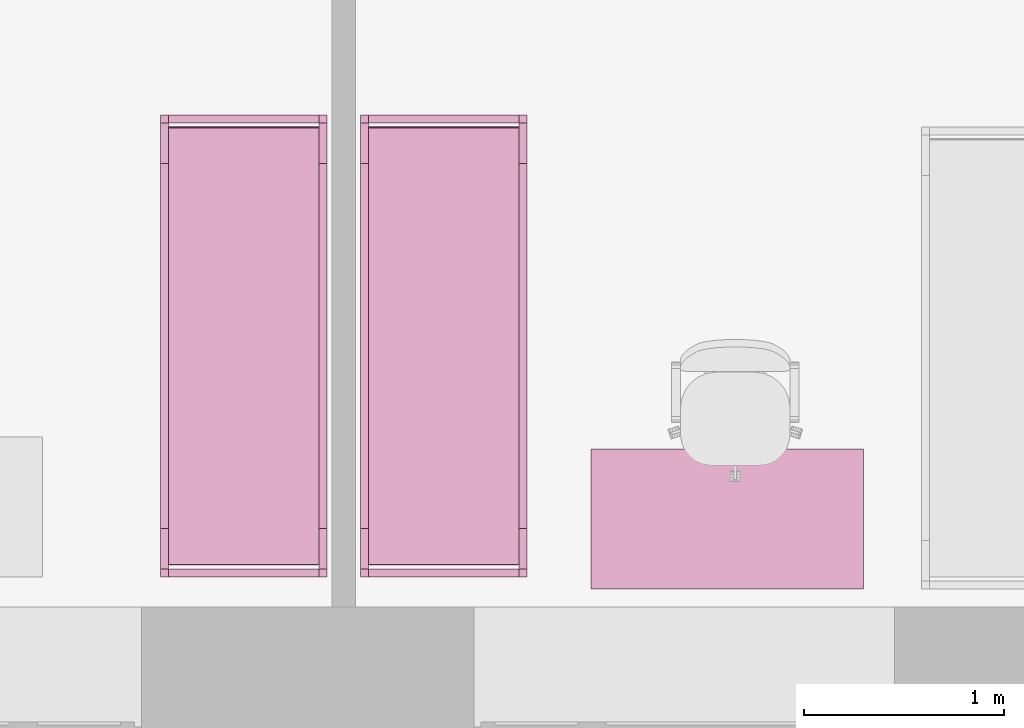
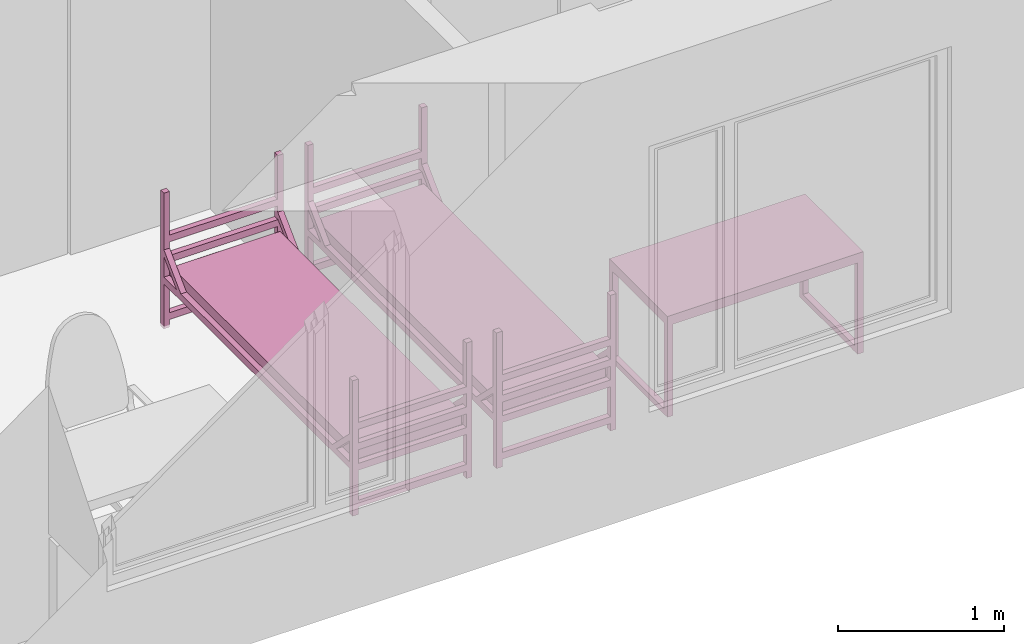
# One storey, part 24 of 48: 3 furnishings.
"""IFC2X3 building model written with IfcOpenShell, lengths in millimetres."""

import ifcopenshell
import ifcopenshell.guid

model = None  # the IFC model being written
_history = None  # IfcOwnerHistory: only IFC2X3 demands one
_inside = {}  # id of a spatial element -> (the spatial element, [elements in it])
_under = {}  # id of a project, library or spatial element -> (it, [spatial elements below it])
_declared = {}  # id of a project -> (the project, [libraries it declares])
_typed = {}  # id of a type object -> (the type object, [elements of that type])
_made_of = {}  # id of a material, layer set ... -> (it, [elements and type objects made of it])


def new_model(schema):
    """Start an empty IFC model of exactly this schema.

    Asked for "IFC4X3", IfcOpenShell would pick the latest addendum, in which some entities
    have other attributes; the version numbers below select the first issue.
    IFC2X3 requires an IfcOwnerHistory on every rooted entity: one is made here for all.
    """
    global model, _history
    if schema == "IFC4X3":
        model = ifcopenshell.file(schema_version=(4, 3, 0, 0))
    else:
        model = ifcopenshell.file(schema=schema)
    _inside.clear()
    _under.clear()
    _declared.clear()
    _typed.clear()
    _made_of.clear()
    _history = None
    if model.schema == "IFC2X3":
        org = make("IfcOrganization", Name="unknown")
        user = make(
            "IfcPersonAndOrganization",
            ThePerson=make("IfcPerson", FamilyName="unknown"),
            TheOrganization=org,
        )
        app = make(
            "IfcApplication",
            ApplicationDeveloper=org,
            Version="unknown",
            ApplicationFullName="unknown",
            ApplicationIdentifier="unknown",
        )
        _history = make(
            "IfcOwnerHistory",
            OwningUser=user,
            OwningApplication=app,
            ChangeAction="ADDED",
            CreationDate=0,
        )
    return model


def make(cls, **values):
    """One entity of the class cls with the attributes given. An attribute that is None is left unset."""
    return model.create_entity(
        cls, **{name: value for name, value in values.items() if value is not None}
    )


def entity(cls, *values):
    """Any entity or typed value of the class cls, its attributes in the order of the schema. None: left unset."""
    e = model.create_entity(cls)
    for i, value in enumerate(values):
        if value is not None:
            e[i] = value
    return e


def rooted(cls, **values):
    """An entity with a GlobalId (a new one), such as an element, a storey or a relation."""
    return make(cls, GlobalId=ifcopenshell.guid.new(), OwnerHistory=_history, **values)


def si_unit(unit_type, name, prefix=None):
    """IfcSIUnit, for example si_unit("LENGTHUNIT", "METRE", prefix="MILLI")."""
    return make("IfcSIUnit", UnitType=unit_type, Prefix=prefix, Name=name)


def converted_unit(unit_type, name, factor, base, dimensions=None, offset=None):
    """IfcConversionBasedUnit, such as the inch: factor (a typed value) times the base unit."""
    return make(
        "IfcConversionBasedUnit"
        if offset is None
        else "IfcConversionBasedUnitWithOffset",
        ConversionOffset=offset,
        Dimensions=None
        if dimensions is None
        else entity("IfcDimensionalExponents", *dimensions),
        UnitType=unit_type,
        Name=name,
        ConversionFactor=make(
            "IfcMeasureWithUnit", ValueComponent=factor, UnitComponent=base
        ),
    )


def derived_unit(unit_type, elements):
    """IfcDerivedUnit: a product of units, each with its exponent."""
    return make(
        "IfcDerivedUnit",
        Elements=[
            make("IfcDerivedUnitElement", Unit=unit, Exponent=power)
            for unit, power in elements
        ],
        UnitType=unit_type,
    )


def assignment(units):
    """IfcUnitAssignment: the units of a project."""
    return None if units is None else make("IfcUnitAssignment", Units=units)


def point(xyz):
    """IfcCartesianPoint."""
    return None if xyz is None else make("IfcCartesianPoint", Coordinates=xyz)


def direction(xyz):
    """IfcDirection."""
    return None if xyz is None else make("IfcDirection", DirectionRatios=xyz)


def frame(location, z_axis=None, x_axis=None):
    """IfcAxis2Placement3D, a coordinate frame: its origin and axes. An axis left out is left unset."""
    return make(
        "IfcAxis2Placement3D",
        Location=point(location),
        Axis=direction(z_axis),
        RefDirection=direction(x_axis),
    )


def frame_2d(location, x_axis=None):
    """IfcAxis2Placement2D, a coordinate frame in the plane: its origin and x axis."""
    return make(
        "IfcAxis2Placement2D", Location=point(location), RefDirection=direction(x_axis)
    )


def origin():
    """The frame at (0, 0, 0) with its axes left unset."""
    return frame((0.0, 0.0, 0.0))


def origin_2d_with_axis():
    """The frame at (0, 0) in the plane with the x axis (1, 0) written out."""
    return frame_2d((0.0, 0.0), x_axis=(1.0, 0.0))


def place(relative_to, where):
    """IfcLocalPlacement: puts the frame where relative to a parent placement (None: the world)."""
    return make(
        "IfcLocalPlacement", PlacementRelTo=relative_to, RelativePlacement=where
    )


def context(
    kind, dimensions, precision=None, world=None, true_north=None, identifier=None
):
    """IfcGeometricRepresentationContext, for example the 3D "Model" context."""
    return make(
        "IfcGeometricRepresentationContext",
        ContextIdentifier=identifier,
        ContextType=kind,
        CoordinateSpaceDimension=dimensions,
        Precision=precision,
        WorldCoordinateSystem=world,
        TrueNorth=true_north,
    )


def subcontext(parent, identifier, kind, view, scale=None):
    """IfcGeometricRepresentationSubContext, for example "Body" below "Model"."""
    return make(
        "IfcGeometricRepresentationSubContext",
        ContextIdentifier=identifier,
        ContextType=kind,
        ParentContext=parent,
        TargetScale=scale,
        TargetView=view,
    )


def project(units=None, contexts=None):
    """IfcProject with its units and contexts."""
    return rooted(
        "IfcProject",
        Name="project",
        RepresentationContexts=contexts,
        UnitsInContext=assignment(units),
    )


def spatial(cls, under=None, at=None, **own):
    """A site, building, storey or space (cls), placed at a placement, below another one or the project."""
    s = rooted(cls, ObjectPlacement=at, **own)
    if under is not None:
        _under.setdefault(under.id(), (under, []))[1].append(s)
    return s


def polyline(points):
    """IfcPolyline through the points."""
    return make("IfcPolyline", Points=[point(p) for p in points])


def circle_curve(where, radius):
    """IfcCircle in the frame where."""
    return make("IfcCircle", Position=where, Radius=radius)


def parameter(value):
    """IfcParameterValue: where a trimmed curve begins or ends, as a parameter of its basis curve."""
    return model.create_entity("IfcParameterValue", value)


def trimmed(basis, trim1, trim2, sense, master):
    """IfcTrimmedCurve: the piece of a basis curve between two trims."""
    return make(
        "IfcTrimmedCurve",
        BasisCurve=basis,
        Trim1=trim1,
        Trim2=trim2,
        SenseAgreement=sense,
        MasterRepresentation=master,
    )


def segment(curve, same_sense, transition):
    """IfcCompositeCurveSegment."""
    return make(
        "IfcCompositeCurveSegment",
        Transition=transition,
        SameSense=same_sense,
        ParentCurve=curve,
    )


def composite_curve(segments, self_intersect=None):
    """IfcCompositeCurve: segments joined end to end."""
    return make("IfcCompositeCurve", Segments=segments, SelfIntersect=self_intersect)


def profile(cls, at=None, kind="AREA", **sizes):
    """A parametric profile (cls). Its sizes go by their IFC names, for example OverallWidth=200.0."""
    return make(cls, ProfileType=kind, Position=at, **sizes)


def rectangle(**sizes):
    """IfcRectangleProfileDef."""
    return profile("IfcRectangleProfileDef", **sizes)


def outline(outer, holes=None, kind="AREA"):
    """IfcArbitraryClosedProfileDef: a profile drawn as a closed curve; with holes, ...WithVoids."""
    if holes is None:
        return make("IfcArbitraryClosedProfileDef", ProfileType=kind, OuterCurve=outer)
    return make(
        "IfcArbitraryProfileDefWithVoids",
        ProfileType=kind,
        OuterCurve=outer,
        InnerCurves=holes,
    )


def extrude(swept, where, along, depth):
    """IfcExtrudedAreaSolid: the profile swept, set in the frame where, extruded along a direction by depth."""
    return make(
        "IfcExtrudedAreaSolid",
        SweptArea=swept,
        Position=where,
        ExtrudedDirection=direction(along),
        Depth=depth,
    )


def faces_of(points, faces, orient=None, outer=None):
    """IfcFace entities. A face is a list of loops; a loop is a list of indices into points, from 0.

    orient and outer hold one flag for each loop. By default every Orientation is true, the
    first loop of a face is its IfcFaceOuterBound and the others are IfcFaceBound.
    """
    made = []
    for i, loops in enumerate(faces):
        bounds = []
        for j, loop in enumerate(loops):
            is_outer = j == 0 if outer is None else outer[i][j]
            bounds.append(
                make(
                    "IfcFaceOuterBound" if is_outer else "IfcFaceBound",
                    Bound=make("IfcPolyLoop", Polygon=[points[k] for k in loop]),
                    Orientation=True if orient is None else orient[i][j],
                )
            )
        made.append(make("IfcFace", Bounds=bounds))
    return made


def faceted_brep(points, faces, orient=None, outer=None, voids=None):
    """IfcFacetedBrep: a solid bounded by flat faces; with voids (closed shells), ...WithVoids."""
    shared = [point(p) for p in points]
    hull = make("IfcClosedShell", CfsFaces=faces_of(shared, faces, orient, outer))
    if voids is None:
        return make("IfcFacetedBrep", Outer=hull)
    return make(
        "IfcFacetedBrepWithVoids",
        Outer=hull,
        Voids=[
            make(cls, CfsFaces=faces_of(shared, fs, o, b)) for cls, fs, o, b in voids
        ],
    )


def shape(context_of_items, identifier, shape_type, items):
    """IfcShapeRepresentation: the items that make up one representation, for example the "Body"."""
    return make(
        "IfcShapeRepresentation",
        ContextOfItems=context_of_items,
        RepresentationIdentifier=identifier,
        RepresentationType=shape_type,
        Items=items,
    )


def source(mapping_origin, context_of_items, identifier, shape_type, items):
    """IfcRepresentationMap: a shape defined once, which mapped items show again and again."""
    return make(
        "IfcRepresentationMap",
        MappingOrigin=mapping_origin,
        MappedRepresentation=shape(context_of_items, identifier, shape_type, items),
    )


def transform(
    local_origin,
    x_axis=None,
    y_axis=None,
    z_axis=None,
    scale=None,
    scale2=None,
    scale3=None,
    uniform=True,
):
    """IfcCartesianTransformationOperator3D, or its non-uniform kind. x_axis, y_axis, z_axis: its Axis1, 2, 3."""
    if uniform:
        return make(
            "IfcCartesianTransformationOperator3D",
            Axis1=direction(x_axis),
            Axis2=direction(y_axis),
            LocalOrigin=point(local_origin),
            Scale=scale,
            Axis3=direction(z_axis),
        )
    return make(
        "IfcCartesianTransformationOperator3DnonUniform",
        Axis1=direction(x_axis),
        Axis2=direction(y_axis),
        LocalOrigin=point(local_origin),
        Scale=scale,
        Axis3=direction(z_axis),
        Scale2=scale2,
        Scale3=scale3,
    )


def mapped(mapping_source, mapping_target):
    """IfcMappedItem: shows the shape of a source again, moved by a transform."""
    return make(
        "IfcMappedItem", MappingSource=mapping_source, MappingTarget=mapping_target
    )


def material(Name=None, Category=None):
    """IfcMaterial."""
    return make("IfcMaterial", Name=Name, Category=Category)


def material_list(materials):
    """IfcMaterialList."""
    return make("IfcMaterialList", Materials=materials)


def made_of(thing, what):
    """Note that an element or type object is made of a material, layer set ...; save() writes the relation."""
    if what is not None:
        _made_of.setdefault(what.id(), (what, []))[1].append(thing)
    return thing


def type_object(cls, material=None, **own):
    """A type object (cls), such as IfcWallType, which elements share."""
    return made_of(rooted(cls, **own), material)


def type_shapes(of_type, sources):
    """Give a type object the sources (RepresentationMaps) that its elements show as mapped items."""
    of_type.RepresentationMaps = sources


def element(
    cls,
    number,
    at=None,
    inside=None,
    cuts=None,
    type_object=None,
    material=None,
    context=None,
    identifier="Body",
    shape_type=None,
    held_by="IfcProductDefinitionShape",
    body=None,
    shapes=None,
    **own,
):
    """One element of the class cls, such as IfcWall. Its Tag is "e" and its number.

    at: its placement. inside: the storey or other place that contains it. cuts: it is an
    opening in that element (IfcRelVoidsElement). A single representation is given by context,
    identifier, shape_type and body (its items); several are given by shapes. held_by: the class
    of the entity that holds the representations. save() writes the other relations.
    """
    e = rooted(cls, Tag="e%d" % number, ObjectPlacement=at, **own)
    if body is not None:
        shapes = [shape(context, identifier, shape_type, body)]
    if shapes is not None:
        e.Representation = make(held_by, Representations=shapes)
    if inside is not None:
        _inside.setdefault(inside.id(), (inside, []))[1].append(e)
    if cuts is not None:
        rooted(
            "IfcRelVoidsElement", RelatingBuildingElement=cuts, RelatedOpeningElement=e
        )
    if type_object is not None:
        _typed.setdefault(type_object.id(), (type_object, []))[1].append(e)
    return made_of(e, material)


def aggregate(whole, parts):
    """IfcRelAggregates: a whole, such as a stair, and the parts it consists of."""
    return rooted("IfcRelAggregates", RelatingObject=whole, RelatedObjects=parts)


def save(model, path):
    """Write the relations noted so far, then the file.

    IfcRelAggregates (storeys below a building ...), IfcRelContainedInSpatialStructure (elements
    in a storey), IfcRelDefinesByType, IfcRelAssociatesMaterial and IfcRelDeclares: one each for
    every whole, place, type object, material and project.
    """
    for whole, parts in _under.values():
        aggregate(whole, parts)
    for where, things in _inside.values():
        rooted(
            "IfcRelContainedInSpatialStructure",
            RelatedElements=things,
            RelatingStructure=where,
        )
    for kind, things in _typed.values():
        rooted("IfcRelDefinesByType", RelatedObjects=things, RelatingType=kind)
    for what, things in _made_of.values():
        rooted("IfcRelAssociatesMaterial", RelatedObjects=things, RelatingMaterial=what)
    for by, libraries in _declared.values():
        rooted("IfcRelDeclares", RelatingContext=by, RelatedDefinitions=libraries)
    model.write(path)


model = new_model("IFC2X3")

# Units and contexts
model_context = context("Model", 3, precision=0.01, world=origin(), true_north=direction((6.12303176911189e-17, 1.0)))
body_context = subcontext(model_context, "Body", "Model", "MODEL_VIEW")
ifc_project = project(units=[si_unit("LENGTHUNIT", "METRE", prefix="MILLI"), si_unit("AREAUNIT", "SQUARE_METRE"), si_unit("VOLUMEUNIT", "CUBIC_METRE"), converted_unit("PLANEANGLEUNIT", "DEGREE", entity("IfcRatioMeasure", 0.0174532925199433), si_unit("PLANEANGLEUNIT", "RADIAN"), dimensions=[0, 0, 0, 0, 0, 0, 0]), si_unit("MASSUNIT", "GRAM", prefix="KILO"), derived_unit("MASSDENSITYUNIT", [(si_unit("MASSUNIT", "GRAM", prefix="KILO"), 1), (si_unit("LENGTHUNIT", "METRE"), -3)]), si_unit("TIMEUNIT", "SECOND"), si_unit("FREQUENCYUNIT", "HERTZ"), si_unit("THERMODYNAMICTEMPERATUREUNIT", "DEGREE_CELSIUS"), derived_unit("THERMALTRANSMITTANCEUNIT", [(si_unit("MASSUNIT", "GRAM", prefix="KILO"), 1), (si_unit("THERMODYNAMICTEMPERATUREUNIT", "KELVIN"), -1), (si_unit("TIMEUNIT", "SECOND"), -3)]), derived_unit("VOLUMETRICFLOWRATEUNIT", [(si_unit("LENGTHUNIT", "METRE"), 3), (si_unit("TIMEUNIT", "SECOND"), -1)]), si_unit("ELECTRICCURRENTUNIT", "AMPERE"), si_unit("ELECTRICVOLTAGEUNIT", "VOLT"), si_unit("POWERUNIT", "WATT"), si_unit("FORCEUNIT", "NEWTON", prefix="KILO"), si_unit("ILLUMINANCEUNIT", "LUX"), si_unit("LUMINOUSFLUXUNIT", "LUMEN"), si_unit("LUMINOUSINTENSITYUNIT", "CANDELA"), derived_unit("USERDEFINED", [(si_unit("MASSUNIT", "GRAM", prefix="KILO"), -1), (si_unit("LENGTHUNIT", "METRE"), -2), (si_unit("TIMEUNIT", "SECOND"), 3), (si_unit("LUMINOUSFLUXUNIT", "LUMEN"), 1)]), derived_unit("LINEARVELOCITYUNIT", [(si_unit("LENGTHUNIT", "METRE"), 1), (si_unit("TIMEUNIT", "SECOND"), -1)]), si_unit("PRESSUREUNIT", "PASCAL"), derived_unit("USERDEFINED", [(si_unit("LENGTHUNIT", "METRE"), -2), (si_unit("MASSUNIT", "GRAM", prefix="KILO"), 1), (si_unit("TIMEUNIT", "SECOND"), -2)]), derived_unit("LINEARFORCEUNIT", [(si_unit("MASSUNIT", "GRAM", prefix="KILO"), 1), (si_unit("LENGTHUNIT", "METRE"), 1), (si_unit("TIMEUNIT", "SECOND"), -2), (si_unit("LENGTHUNIT", "METRE"), -1)]), derived_unit("PLANARFORCEUNIT", [(si_unit("MASSUNIT", "GRAM", prefix="KILO"), 1), (si_unit("LENGTHUNIT", "METRE"), 1), (si_unit("TIMEUNIT", "SECOND"), -2), (si_unit("LENGTHUNIT", "METRE"), -2)])], contexts=[model_context])

# Site, building, storey, space
site_placement = place(None, origin())
site = spatial("IfcSite", under=ifc_project, at=site_placement, Name="Default", CompositionType="ELEMENT")
building_placement = place(site_placement, origin())
building = spatial("IfcBuilding", under=site, at=building_placement, Name="SMA ARH", CompositionType="ELEMENT")
storey_placement = place(building_placement, frame((0.0, 0.0, 6600.0)))
storey = spatial("IfcBuildingStorey", under=building, at=storey_placement, Name="3 Korrus", CompositionType="ELEMENT", Elevation=6599.99999999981)
space_1_placement = place(storey_placement, origin())
space_1 = spatial("IfcSpace", under=storey, at=space_1_placement, Name="3-14", CompositionType="ELEMENT", InteriorOrExteriorSpace="INTERNAL")

# Furnishing
ifc_material_1 = material(Name="Madrats")
furniture_type_1 = type_object("IfcFurnitureType", Name="Kasarmu voodi ühekordne 2308x830:Kasarmu voodi ühekordne 2308x830", material=ifc_material_1)
shared_shape_1 = source(origin(), body_context, "Body", "SweptSolid", [
    extrude(rectangle(XDim=39.9999999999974, YDim=750.000000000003, at=frame_2d((-1.35003119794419e-13, -2.8421709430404e-14), x_axis=(1.0, 0.0))), frame((1.68638457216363, -1226.7969571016, 55.0), z_axis=(0.0, 0.0, 1.0), x_axis=(0.0, -1.0, 0.0)), (0.0, 0.0, 1.0), 49.9999999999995),
    extrude(rectangle(XDim=39.9999999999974, YDim=750.000000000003, at=frame_2d((-1.35003119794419e-13, -2.8421709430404e-14), x_axis=(1.0, 0.0))), frame((1.68638457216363, -1226.7969571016, 325.0), z_axis=(0.0, 0.0, 1.0), x_axis=(0.0, -1.0, 0.0)), (0.0, 0.0, 1.0), 49.9999999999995),
    extrude(rectangle(XDim=39.9999999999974, YDim=750.000000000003, at=frame_2d((-1.35003119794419e-13, -2.8421709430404e-14), x_axis=(1.0, 0.0))), frame((1.68638457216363, -1226.7969571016, 475.0), z_axis=(0.0, 0.0, 1.0), x_axis=(0.0, -1.0, 0.0)), (0.0, 0.0, 1.0), 49.9999999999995),
    extrude(rectangle(XDim=39.9999999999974, YDim=750.000000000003, at=frame_2d((-1.35003119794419e-13, -2.8421709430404e-14), x_axis=(1.0, 0.0))), frame((1.68638457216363, -1226.7969571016, 625.0), z_axis=(0.0, 0.0, 1.0), x_axis=(0.0, -1.0, 0.0)), (0.0, 0.0, 1.0), 50.0000000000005),
    extrude(rectangle(XDim=39.9999999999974, YDim=750.000000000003, at=frame_2d((1.35003119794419e-13, -2.8421709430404e-14), x_axis=(1.0, 0.0))), frame((1.68638457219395, 1041.2030428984, 55.0), z_axis=(0.0, 0.0, 1.0), x_axis=(0.0, -1.0, 0.0)), (0.0, 0.0, 1.0), 50.0000000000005),
    extrude(rectangle(XDim=39.9999999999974, YDim=750.000000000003, at=frame_2d((1.35003119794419e-13, -2.8421709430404e-14), x_axis=(1.0, 0.0))), frame((1.68638457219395, 1041.2030428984, 325.0), z_axis=(0.0, 0.0, 1.0), x_axis=(0.0, -1.0, 0.0)), (0.0, 0.0, 1.0), 50.0000000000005),
    extrude(rectangle(XDim=39.9999999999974, YDim=750.000000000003, at=frame_2d((1.35003119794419e-13, -2.8421709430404e-14), x_axis=(1.0, 0.0))), frame((1.68638457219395, 1041.2030428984, 475.0), z_axis=(0.0, 0.0, 1.0), x_axis=(0.0, -1.0, 0.0)), (0.0, 0.0, 1.0), 50.0000000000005),
    extrude(rectangle(XDim=39.9999999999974, YDim=750.000000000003, at=frame_2d((1.35003119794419e-13, -2.8421709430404e-14), x_axis=(1.0, 0.0))), frame((1.68638457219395, 1041.2030428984, 625.0), z_axis=(0.0, 0.0, 1.0), x_axis=(0.0, -1.0, 0.0)), (0.0, 0.0, 1.0), 49.9999999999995),
    extrude(outline(composite_curve([segment(trimmed(circle_curve(frame_2d((1085.0, -40.0), x_axis=(1.0, 0.0)), 10.0), [parameter(270.0)], [parameter(0.0)], True, "PARAMETER"), True, "CONTINUOUS"), segment(polyline([(1095.0, -40.0), (1095.0, 40.0)]), True, "CONTINUOUS"), segment(trimmed(circle_curve(frame_2d((1085.0, 40.0), x_axis=(1.0, 0.0)), 10.0), [parameter(0.0)], [parameter(90.0000000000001)], True, "PARAMETER"), True, "CONTINUOUS"), segment(polyline([(1085.0, 50.0), (-1085.0, 50.0)]), True, "CONTINUOUS"), segment(trimmed(circle_curve(frame_2d((-1085.0, 40.0), x_axis=(1.0, 0.0)), 10.0), [parameter(90.0000000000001)], [parameter(180.0)], True, "PARAMETER"), True, "CONTINUOUS"), segment(polyline([(-1095.0, 40.0), (-1095.0, -40.0)]), True, "CONTINUOUS"), segment(trimmed(circle_curve(frame_2d((-1085.0, -40.0), x_axis=(1.0, 0.0)), 10.0), [parameter(180.0)], [parameter(270.0)], True, "PARAMETER"), True, "CONTINUOUS"), segment(polyline([(-1085.0, -50.0), (1085.0, -50.0)]), True, "CONTINUOUS")], self_intersect=False)), frame((-373.313615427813, -92.7969571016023, 405.0), z_axis=(1.0, 0.0, 0.0), x_axis=(0.0, -1.0, 0.0)), (0.0, 0.0, 1.0), 750.000000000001),
    extrude(outline(polyline([(-1114.0, -100.0), (1114.0, -100.0), (1114.0, -50.0), (961.59199141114, -50.0), (1114.0, 100.0), (1114.0, 150.0), (910.789321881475, -50.0), (-910.789321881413, -50.0), (-1114.0, 150.0), (-1114.0, 100.0), (-961.591991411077, -50.0), (-1114.0, -50.0), (-1114.0, -100.0)])), frame((-413.313615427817, -92.7969571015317, 430.0), z_axis=(1.0, 0.0, 0.0), x_axis=(0.0, 1.0, 0.0)), (0.0, 0.0, 1.0), 39.9999999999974),
    extrude(outline(polyline([(-1114.0, -100.0), (1114.0, -100.0), (1114.0, -50.0), (961.591991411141, -50.0), (1114.0, 100.0), (1114.0, 150.0), (910.789321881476, -50.0), (-910.789321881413, -50.0), (-1114.0, 150.0), (-1114.0, 100.0), (-961.591991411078, -50.0), (-1114.0, -50.0), (-1114.0, -100.0)])), frame((376.686384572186, -92.796957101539, 430.0), z_axis=(1.0, 0.0, 0.0), x_axis=(0.0, 1.0, 0.0)), (0.0, 0.0, 1.0), 39.9999999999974),
    extrude(rectangle(XDim=39.9999999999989, YDim=39.9999999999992, at=frame_2d((-6.75015598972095e-14, 0.0), x_axis=(1.0, 0.0))), frame((396.686384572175, -1226.79695710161, 0.0), z_axis=(0.0, 0.0, 1.0), x_axis=(0.0, 1.0, 0.0)), (0.0, 0.0, 1.0), 995.0),
    extrude(rectangle(XDim=39.9999999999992, YDim=39.9999999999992, at=frame_2d((-1.35003119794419e-13, 0.0), x_axis=(1.0, 0.0))), frame((396.686384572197, 1041.20304289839, 0.0), z_axis=(0.0, 0.0, 1.0), x_axis=(0.0, 1.0, 0.0)), (0.0, 0.0, 1.0), 995.0),
    extrude(rectangle(XDim=40.0000000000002, YDim=39.9999999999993, at=frame_2d((-1.35003119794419e-13, 0.0), x_axis=(1.0, 0.0))), frame((-393.313615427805, 1041.2030428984, 0.0), z_axis=(0.0, 0.0, 1.0), x_axis=(0.0, 1.0, 0.0)), (0.0, 0.0, 1.0), 995.0),
    extrude(rectangle(XDim=39.9999999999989, YDim=39.9999999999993, at=frame_2d((-6.75015598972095e-14, 0.0), x_axis=(1.0, 0.0))), frame((-393.313615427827, -1226.7969571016, 0.0), z_axis=(0.0, 0.0, 1.0), x_axis=(0.0, 1.0, 0.0)), (0.0, 0.0, 1.0), 995.0),
])
type_shapes(furniture_type_1, [shared_shape_1])
furnishing_1_placement = place(space_1_placement, frame((7628.8136154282, 1396.79695710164, 0.0)))
element("IfcFurnishingElement", 1, at=furnishing_1_placement, inside=space_1, type_object=furniture_type_1, material=ifc_material_1, Name="Kasarmu voodi ühekordne 2308x830:Kasarmu voodi ühekordne 2308x830", ObjectType="Kasarmu voodi ühekordne 2308x830:Kasarmu voodi ühekordne 2308x830", context=body_context, shape_type="MappedRepresentation", body=[
    mapped(shared_shape_1, transform((0.0, 0.0, 0.0), scale=1.0)),
])

# Space
space_2_placement = place(storey_placement, origin())
space_2 = spatial("IfcSpace", under=storey, at=space_2_placement, Name="3-13", CompositionType="ELEMENT", InteriorOrExteriorSpace="INTERNAL")

# Furnishings
ifc_material_2 = material(Name="<Unnamed>")
ifc_material_list = material_list([ifc_material_2, ifc_material_2])
furniture_type_2 = type_object("IfcFurnitureType", Name="kirjutuslaud 1360x700mm:kirjutuslaud 1360x700mm", material=ifc_material_list)
shared_shape_2 = source(origin(), body_context, "Body", "Brep", [
    faceted_brep([(680.0, -350.0, 720.0), (680.0, 350.0, 720.0), (680.0, 350.0, 750.0), (680.0, -350.0, 750.0), (-680.0, -350.0, 720.0), (-680.0, -350.0, 750.0), (-680.0, 350.0, 750.0), (-680.0, 350.0, 720.0)], [[[0, 1, 2, 3]], [[4, 5, 6, 7]], [[1, 0, 4, 7]], [[2, 1, 7, 6]], [[3, 2, 6, 5]], [[0, 3, 5, 4]]]),
    faceted_brep([(-640.0, -310.0, 680.0), (-640.0, 310.0, 680.0), (-640.0, 310.0, 720.0), (-640.0, -310.0, 720.0), (-680.0, -350.0, 720.0), (-680.0, 350.0, 720.0), (-680.0, 350.0, 10.0), (-680.0, -350.0, 10.0), (-680.0, 310.0, 680.0), (-680.0, -310.0, 680.0), (-680.0, -310.0, 50.0), (-680.0, 310.0, 50.0), (-640.0, -350.0, 10.0), (-640.0, -350.0, 680.0), (640.0, -350.0, 680.0), (640.0, -350.0, 10.0), (680.0, -350.0, 10.0), (680.0, -350.0, 720.0), (-640.0, 350.0, 10.0), (680.0, 350.0, 720.0), (680.0, 350.0, 10.0), (640.0, 350.0, 10.0), (640.0, 350.0, 680.0), (-640.0, 350.0, 680.0), (640.0, 310.0, 720.0), (640.0, -310.0, 720.0), (-640.0, 310.0, 50.0), (-640.0, -310.0, 50.0), (640.0, -310.0, 680.0), (640.0, 310.0, 680.0), (680.0, 310.0, 680.0), (680.0, 310.0, 50.0), (680.0, -310.0, 50.0), (680.0, -310.0, 680.0), (640.0, -310.0, 50.0), (640.0, 310.0, 50.0)], [[[0, 1, 2, 3]], [[4, 5, 6, 7], [8, 9, 10, 11]], [[4, 7, 12, 13, 14, 15, 16, 17]], [[18, 12, 7, 6]], [[6, 5, 19, 20, 21, 22, 23, 18]], [[19, 5, 4, 17], [2, 24, 25, 3]], [[26, 1, 8, 11]], [[27, 26, 11, 10]], [[0, 27, 10, 9]], [[1, 0, 9, 8]], [[14, 13, 0, 28]], [[24, 2, 1, 29]], [[3, 25, 28, 0]], [[17, 16, 20, 19], [30, 31, 32, 33]], [[21, 15, 14, 28, 34, 35, 29, 22]], [[20, 16, 15, 21]], [[31, 30, 29, 35]], [[32, 31, 35, 34]], [[33, 32, 34, 28]], [[30, 33, 28, 29]], [[29, 28, 25, 24]], [[29, 1, 23, 22]], [[12, 18, 23, 1, 26, 27, 0, 13]]]),
    faceted_brep([(-663.729456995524, -270.466136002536, 0.0), (-659.847171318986, -269.955023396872, 0.0), (-655.964885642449, -270.466136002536, 0.0), (-652.347171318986, -271.964642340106, 0.0), (-649.240569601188, -274.348421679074, 0.0), (-646.85679026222, -277.455023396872, 0.0), (-645.35828392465, -281.072737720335, 0.0), (-644.847171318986, -284.955023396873, 0.0), (-645.35828392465, -288.83730907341, 0.0), (-646.85679026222, -292.455023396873, 0.0), (-649.240569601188, -295.561625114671, 0.0), (-652.347171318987, -297.945404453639, 0.0), (-655.964885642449, -299.443910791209, 0.0), (-659.847171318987, -299.955023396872, 0.0), (-663.729456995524, -299.443910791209, 0.0), (-667.347171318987, -297.945404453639, 0.0), (-670.453773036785, -295.561625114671, 0.0), (-672.837552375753, -292.455023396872, 0.0), (-674.336058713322, -288.83730907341, 0.0), (-674.847171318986, -284.955023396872, 0.0), (-674.336058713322, -281.072737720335, 0.0), (-672.837552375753, -277.455023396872, 0.0), (-670.453773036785, -274.348421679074, 0.0), (-667.347171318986, -271.964642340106, 0.0), (-655.964885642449, -299.443910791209, 10.0), (-652.347171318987, -297.945404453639, 10.0), (-649.240569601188, -295.561625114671, 10.0), (-646.85679026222, -292.455023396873, 10.0), (-645.35828392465, -288.83730907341, 10.0), (-644.847171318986, -284.955023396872, 10.0), (-645.35828392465, -281.072737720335, 10.0), (-646.85679026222, -277.455023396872, 10.0), (-649.240569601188, -274.348421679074, 10.0), (-652.347171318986, -271.964642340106, 10.0), (-655.964885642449, -270.466136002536, 10.0), (-659.847171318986, -269.955023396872, 10.0), (-663.729456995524, -270.466136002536, 10.0), (-667.347171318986, -271.964642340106, 10.0), (-670.453773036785, -274.348421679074, 10.0), (-672.837552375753, -277.455023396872, 10.0), (-674.336058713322, -281.072737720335, 10.0), (-674.847171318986, -284.955023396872, 10.0), (-674.336058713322, -288.83730907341, 10.0), (-672.837552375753, -292.455023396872, 10.0), (-670.453773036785, -295.561625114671, 10.0), (-667.347171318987, -297.945404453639, 10.0), (-663.729456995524, -299.443910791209, 10.0), (-659.847171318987, -299.955023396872, 10.0)], [[[0, 1, 2, 3, 4, 5, 6, 7, 8, 9, 10, 11, 12, 13, 14, 15, 16, 17, 18, 19, 20, 21, 22, 23]], [[24, 25, 26, 27, 28, 29, 30, 31, 32, 33, 34, 35, 36, 37, 38, 39, 40, 41, 42, 43, 44, 45, 46, 47]], [[18, 42, 41, 19]], [[17, 43, 42, 18]], [[45, 44, 16, 15]], [[17, 16, 44, 43]], [[46, 45, 15, 14]], [[47, 46, 14, 13]], [[12, 24, 47, 13]], [[11, 25, 24, 12]], [[27, 26, 10, 9]], [[11, 10, 26, 25]], [[28, 27, 9, 8]], [[29, 28, 8, 7]], [[6, 30, 29, 7]], [[5, 31, 30, 6]], [[33, 32, 4, 3]], [[5, 4, 32, 31]], [[34, 33, 3, 2]], [[35, 34, 2, 1]], [[0, 36, 35, 1]], [[23, 37, 36, 0]], [[39, 38, 22, 21]], [[23, 22, 38, 37]], [[40, 39, 21, 20]], [[41, 40, 20, 19]]]),
    faceted_brep([(-655.964885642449, 270.466136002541, 10.0), (-652.347171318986, 271.964642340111, 10.0), (-649.240569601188, 274.348421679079, 10.0), (-646.85679026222, 277.455023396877, 10.0), (-645.35828392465, 281.07273772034, 10.0), (-644.847171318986, 284.955023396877, 10.0), (-645.35828392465, 288.837309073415, 10.0), (-646.85679026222, 292.455023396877, 10.0), (-649.240569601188, 295.561625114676, 10.0), (-652.347171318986, 297.945404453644, 10.0), (-655.964885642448, 299.443910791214, 10.0), (-659.847171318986, 299.955023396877, 10.0), (-663.729456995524, 299.443910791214, 10.0), (-667.347171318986, 297.945404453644, 10.0), (-670.453773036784, 295.561625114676, 10.0), (-672.837552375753, 292.455023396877, 10.0), (-674.336058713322, 288.837309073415, 10.0), (-674.847171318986, 284.955023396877, 10.0), (-674.336058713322, 281.07273772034, 10.0), (-672.837552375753, 277.455023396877, 10.0), (-670.453773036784, 274.348421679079, 10.0), (-667.347171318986, 271.964642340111, 10.0), (-663.729456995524, 270.466136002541, 10.0), (-659.847171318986, 269.955023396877, 10.0), (-655.964885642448, 299.443910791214, 0.0), (-652.347171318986, 297.945404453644, 0.0), (-649.240569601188, 295.561625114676, 0.0), (-646.85679026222, 292.455023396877, 0.0), (-645.35828392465, 288.837309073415, 0.0), (-644.847171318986, 284.955023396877, 0.0), (-645.35828392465, 281.07273772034, 0.0), (-646.85679026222, 277.455023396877, 0.0), (-649.240569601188, 274.348421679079, 0.0), (-652.347171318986, 271.964642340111, 0.0), (-655.964885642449, 270.466136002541, 0.0), (-659.847171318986, 269.955023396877, 0.0), (-663.729456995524, 270.466136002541, 0.0), (-667.347171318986, 271.964642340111, 0.0), (-670.453773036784, 274.348421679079, 0.0), (-672.837552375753, 277.455023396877, 0.0), (-674.336058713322, 281.07273772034, 0.0), (-674.847171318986, 284.955023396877, 0.0), (-674.336058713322, 288.837309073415, 0.0), (-672.837552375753, 292.455023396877, 0.0), (-670.453773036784, 295.561625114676, 0.0), (-667.347171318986, 297.945404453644, 0.0), (-663.729456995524, 299.443910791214, 0.0), (-659.847171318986, 299.955023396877, 0.0)], [[[0, 1, 2, 3, 4, 5, 6, 7, 8, 9, 10, 11, 12, 13, 14, 15, 16, 17, 18, 19, 20, 21, 22, 23]], [[24, 25, 26, 27, 28, 29, 30, 31, 32, 33, 34, 35, 36, 37, 38, 39, 40, 41, 42, 43, 44, 45, 46, 47]], [[40, 18, 17, 41]], [[39, 19, 18, 40]], [[21, 20, 38, 37]], [[39, 38, 20, 19]], [[22, 21, 37, 36]], [[23, 22, 36, 35]], [[34, 0, 23, 35]], [[33, 1, 0, 34]], [[3, 2, 32, 31]], [[33, 32, 2, 1]], [[4, 3, 31, 30]], [[5, 4, 30, 29]], [[28, 6, 5, 29]], [[27, 7, 6, 28]], [[9, 8, 26, 25]], [[27, 26, 8, 7]], [[10, 9, 25, 24]], [[11, 10, 24, 47]], [[46, 12, 11, 47]], [[45, 13, 12, 46]], [[15, 14, 44, 43]], [[45, 44, 14, 13]], [[16, 15, 43, 42]], [[17, 16, 42, 41]]]),
    faceted_brep([(656.270543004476, -270.466136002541, 0.0), (660.152828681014, -269.955023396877, 0.0), (664.035114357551, -270.466136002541, 0.0), (667.652828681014, -271.96464234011, 0.0), (670.759430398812, -274.348421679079, 0.0), (673.14320973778, -277.455023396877, 0.0), (674.64171607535, -281.072737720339, 0.0), (675.152828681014, -284.955023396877, 0.0), (674.64171607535, -288.837309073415, 0.0), (673.14320973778, -292.455023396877, 0.0), (670.759430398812, -295.561625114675, 0.0), (667.652828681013, -297.945404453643, 0.0), (664.035114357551, -299.443910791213, 0.0), (660.152828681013, -299.955023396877, 0.0), (656.270543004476, -299.443910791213, 0.0), (652.652828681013, -297.945404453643, 0.0), (649.546226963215, -295.561625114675, 0.0), (647.162447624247, -292.455023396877, 0.0), (645.663941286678, -288.837309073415, 0.0), (645.152828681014, -284.955023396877, 0.0), (645.663941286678, -281.072737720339, 0.0), (647.162447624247, -277.455023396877, 0.0), (649.546226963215, -274.348421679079, 0.0), (652.652828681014, -271.96464234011, 0.0), (664.035114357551, -299.443910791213, 10.0), (667.652828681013, -297.945404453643, 10.0), (670.759430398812, -295.561625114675, 10.0), (673.14320973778, -292.455023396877, 10.0), (674.64171607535, -288.837309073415, 10.0), (675.152828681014, -284.955023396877, 10.0), (674.64171607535, -281.072737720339, 10.0), (673.14320973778, -277.455023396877, 10.0), (670.759430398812, -274.348421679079, 10.0), (667.652828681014, -271.96464234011, 10.0), (664.035114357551, -270.466136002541, 10.0), (660.152828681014, -269.955023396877, 10.0), (656.270543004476, -270.466136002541, 10.0), (652.652828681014, -271.96464234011, 10.0), (649.546226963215, -274.348421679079, 10.0), (647.162447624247, -277.455023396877, 10.0), (645.663941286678, -281.072737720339, 10.0), (645.152828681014, -284.955023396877, 10.0), (645.663941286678, -288.837309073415, 10.0), (647.162447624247, -292.455023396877, 10.0), (649.546226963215, -295.561625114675, 10.0), (652.652828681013, -297.945404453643, 10.0), (656.270543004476, -299.443910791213, 10.0), (660.152828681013, -299.955023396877, 10.0)], [[[0, 1, 2, 3, 4, 5, 6, 7, 8, 9, 10, 11, 12, 13, 14, 15, 16, 17, 18, 19, 20, 21, 22, 23]], [[24, 25, 26, 27, 28, 29, 30, 31, 32, 33, 34, 35, 36, 37, 38, 39, 40, 41, 42, 43, 44, 45, 46, 47]], [[18, 42, 41, 19]], [[17, 43, 42, 18]], [[45, 44, 16, 15]], [[17, 16, 44, 43]], [[46, 45, 15, 14]], [[47, 46, 14, 13]], [[12, 24, 47, 13]], [[11, 25, 24, 12]], [[27, 26, 10, 9]], [[11, 10, 26, 25]], [[28, 27, 9, 8]], [[29, 28, 8, 7]], [[6, 30, 29, 7]], [[5, 31, 30, 6]], [[33, 32, 4, 3]], [[5, 4, 32, 31]], [[34, 33, 3, 2]], [[35, 34, 2, 1]], [[0, 36, 35, 1]], [[23, 37, 36, 0]], [[39, 38, 22, 21]], [[23, 22, 38, 37]], [[40, 39, 21, 20]], [[41, 40, 20, 19]]]),
    faceted_brep([(664.035114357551, 270.466136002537, 10.0), (667.652828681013, 271.964642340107, 10.0), (670.759430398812, 274.348421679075, 10.0), (673.14320973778, 277.455023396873, 10.0), (674.64171607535, 281.072737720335, 10.0), (675.152828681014, 284.955023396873, 10.0), (674.64171607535, 288.837309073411, 10.0), (673.14320973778, 292.455023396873, 10.0), (670.759430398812, 295.561625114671, 10.0), (667.652828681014, 297.94540445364, 10.0), (664.035114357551, 299.443910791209, 10.0), (660.152828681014, 299.955023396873, 10.0), (656.270543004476, 299.443910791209, 10.0), (652.652828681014, 297.94540445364, 10.0), (649.546226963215, 295.561625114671, 10.0), (647.162447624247, 292.455023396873, 10.0), (645.663941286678, 288.837309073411, 10.0), (645.152828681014, 284.955023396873, 10.0), (645.663941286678, 281.072737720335, 10.0), (647.162447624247, 277.455023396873, 10.0), (649.546226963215, 274.348421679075, 10.0), (652.652828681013, 271.964642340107, 10.0), (656.270543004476, 270.466136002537, 10.0), (660.152828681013, 269.955023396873, 10.0), (664.035114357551, 299.443910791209, 0.0), (667.652828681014, 297.94540445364, 0.0), (670.759430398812, 295.561625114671, 0.0), (673.14320973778, 292.455023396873, 0.0), (674.64171607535, 288.837309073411, 0.0), (675.152828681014, 284.955023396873, 0.0), (674.64171607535, 281.072737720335, 0.0), (673.14320973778, 277.455023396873, 0.0), (670.759430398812, 274.348421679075, 0.0), (667.652828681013, 271.964642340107, 0.0), (664.035114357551, 270.466136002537, 0.0), (660.152828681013, 269.955023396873, 0.0), (656.270543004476, 270.466136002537, 0.0), (652.652828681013, 271.964642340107, 0.0), (649.546226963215, 274.348421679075, 0.0), (647.162447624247, 277.455023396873, 0.0), (645.663941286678, 281.072737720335, 0.0), (645.152828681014, 284.955023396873, 0.0), (645.663941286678, 288.837309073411, 0.0), (647.162447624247, 292.455023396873, 0.0), (649.546226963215, 295.561625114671, 0.0), (652.652828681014, 297.94540445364, 0.0), (656.270543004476, 299.443910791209, 0.0), (660.152828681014, 299.955023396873, 0.0)], [[[0, 1, 2, 3, 4, 5, 6, 7, 8, 9, 10, 11, 12, 13, 14, 15, 16, 17, 18, 19, 20, 21, 22, 23]], [[24, 25, 26, 27, 28, 29, 30, 31, 32, 33, 34, 35, 36, 37, 38, 39, 40, 41, 42, 43, 44, 45, 46, 47]], [[40, 18, 17, 41]], [[39, 19, 18, 40]], [[21, 20, 38, 37]], [[39, 38, 20, 19]], [[22, 21, 37, 36]], [[23, 22, 36, 35]], [[34, 0, 23, 35]], [[33, 1, 0, 34]], [[3, 2, 32, 31]], [[33, 32, 2, 1]], [[4, 3, 31, 30]], [[5, 4, 30, 29]], [[28, 6, 5, 29]], [[27, 7, 6, 28]], [[9, 8, 26, 25]], [[27, 26, 8, 7]], [[10, 9, 25, 24]], [[11, 10, 24, 47]], [[46, 12, 11, 47]], [[45, 13, 12, 46]], [[15, 14, 44, 43]], [[45, 44, 14, 13]], [[16, 15, 43, 42]], [[17, 16, 42, 41]]]),
])
type_shapes(furniture_type_2, [shared_shape_2])
furnishing_2_placement = place(space_2_placement, frame((10045.5000000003, 440.0, 0.0)))
element("IfcFurnishingElement", 2, at=furnishing_2_placement, inside=space_2, type_object=furniture_type_2, Name="kirjutuslaud 1360x700mm:kirjutuslaud 1360x700mm", ObjectType="kirjutuslaud 1360x700mm:kirjutuslaud 1360x700mm", context=body_context, shape_type="MappedRepresentation", body=[
    mapped(shared_shape_2, transform((0.0, 0.0, 0.0), scale=1.0)),
])
furniture_type_3 = type_object("IfcFurnitureType", Name="Kasarmu voodi ühekordne 2308x830:Kasarmu voodi ühekordne 2308x830", material=ifc_material_1)
shared_shape_3 = source(origin(), body_context, "Body", "SweptSolid", [
    extrude(rectangle(XDim=750.000000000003, YDim=39.9999999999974, at=frame_2d((0.0, 1.35003119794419e-13), x_axis=(1.0, 0.0))), frame((1.68638457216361, 1226.7969571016, 55.0)), (0.0, 0.0, 1.0), 49.9999999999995),
    extrude(rectangle(XDim=750.000000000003, YDim=39.9999999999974, at=frame_2d((0.0, 1.35003119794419e-13), x_axis=(1.0, 0.0))), frame((1.68638457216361, 1226.7969571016, 325.0)), (0.0, 0.0, 1.0), 49.9999999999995),
    extrude(rectangle(XDim=750.000000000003, YDim=39.9999999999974, at=frame_2d((0.0, 1.35003119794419e-13), x_axis=(1.0, 0.0))), frame((1.68638457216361, 1226.7969571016, 475.0)), (0.0, 0.0, 1.0), 49.9999999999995),
    extrude(rectangle(XDim=750.000000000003, YDim=39.9999999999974, at=frame_2d((0.0, 1.35003119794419e-13), x_axis=(1.0, 0.0))), frame((1.68638457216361, 1226.7969571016, 625.0)), (0.0, 0.0, 1.0), 50.0000000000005),
    extrude(rectangle(XDim=750.000000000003, YDim=39.9999999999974, at=origin_2d_with_axis()), frame((1.68638457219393, -1041.2030428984, 55.0)), (0.0, 0.0, 1.0), 50.0000000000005),
    extrude(rectangle(XDim=750.000000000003, YDim=39.9999999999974, at=origin_2d_with_axis()), frame((1.68638457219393, -1041.2030428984, 325.0)), (0.0, 0.0, 1.0), 50.0000000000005),
    extrude(rectangle(XDim=750.000000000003, YDim=39.9999999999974, at=origin_2d_with_axis()), frame((1.68638457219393, -1041.2030428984, 475.0)), (0.0, 0.0, 1.0), 50.0000000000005),
    extrude(rectangle(XDim=750.000000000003, YDim=39.9999999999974, at=origin_2d_with_axis()), frame((1.68638457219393, -1041.2030428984, 625.0)), (0.0, 0.0, 1.0), 49.9999999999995),
    extrude(outline(composite_curve([segment(polyline([(-1085.0, -50.0), (1085.0, -50.0)]), True, "CONTINUOUS"), segment(trimmed(circle_curve(frame_2d((1085.0, -40.0), x_axis=(-1.0, 0.0)), 10.0), [parameter(90.0000000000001)], [parameter(180.0)], True, "PARAMETER"), True, "CONTINUOUS"), segment(polyline([(1095.0, -40.0), (1095.0, 40.0)]), True, "CONTINUOUS"), segment(trimmed(circle_curve(frame_2d((1085.0, 40.0), x_axis=(-1.0, 0.0)), 10.0), [parameter(180.0)], [parameter(270.0)], True, "PARAMETER"), True, "CONTINUOUS"), segment(polyline([(1085.0, 50.0), (-1085.0, 50.0)]), True, "CONTINUOUS"), segment(trimmed(circle_curve(frame_2d((-1085.0, 40.0), x_axis=(-1.0, 0.0)), 10.0), [parameter(270.0)], [parameter(0.0)], True, "PARAMETER"), True, "CONTINUOUS"), segment(polyline([(-1095.0, 40.0), (-1095.0, -40.0)]), True, "CONTINUOUS"), segment(trimmed(circle_curve(frame_2d((-1085.0, -40.0), x_axis=(-1.0, 0.0)), 10.0), [parameter(0.0)], [parameter(90.0000000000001)], True, "PARAMETER"), True, "CONTINUOUS")], self_intersect=False)), frame((-373.313615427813, 92.7969571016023, 405.0), z_axis=(1.0, 0.0, 0.0), x_axis=(0.0, -1.0, 0.0)), (0.0, 0.0, 1.0), 750.000000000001),
    extrude(outline(polyline([(-100.0, -1114.0), (-50.0, -1114.0), (-50.0, -961.591991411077), (100.0, -1114.0), (150.0, -1114.0), (-50.0, -910.789321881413), (-50.0, 910.789321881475), (150.0, 1114.0), (100.0, 1114.0), (-50.0, 961.591991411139), (-50.0, 1114.0), (-100.0, 1114.0), (-100.0, -1114.0)])), frame((-413.313615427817, 92.7969571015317, 430.0), z_axis=(1.0, 0.0, 0.0), x_axis=(0.0, 0.0, 1.0)), (0.0, 0.0, 1.0), 39.9999999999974),
    extrude(outline(polyline([(-100.0, -1114.0), (-50.0, -1114.0), (-50.0, -961.591991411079), (100.0, -1114.0), (150.0, -1114.0), (-50.0, -910.789321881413), (-50.0, 910.789321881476), (150.0, 1114.0), (100.0, 1114.0), (-50.0, 961.591991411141), (-50.0, 1114.0), (-100.0, 1114.0), (-100.0, -1114.0)])), frame((376.686384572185, 92.796957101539, 430.0), z_axis=(1.0, 0.0, 0.0), x_axis=(0.0, 0.0, 1.0)), (0.0, 0.0, 1.0), 39.9999999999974),
    extrude(rectangle(XDim=39.9999999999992, YDim=39.9999999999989, at=frame_2d((0.0, -6.75015598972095e-14), x_axis=(1.0, 0.0))), frame((396.686384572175, 1226.79695710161, 0.0), z_axis=(0.0, 0.0, 1.0), x_axis=(-1.0, 0.0, 0.0)), (0.0, 0.0, 1.0), 995.0),
    extrude(rectangle(XDim=39.9999999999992, YDim=39.9999999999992, at=origin_2d_with_axis()), frame((396.686384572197, -1041.20304289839, 0.0), z_axis=(0.0, 0.0, 1.0), x_axis=(-1.0, 0.0, 0.0)), (0.0, 0.0, 1.0), 995.0),
    extrude(rectangle(XDim=39.9999999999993, YDim=40.0000000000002, at=origin_2d_with_axis()), frame((-393.313615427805, -1041.2030428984, 0.0), z_axis=(0.0, 0.0, 1.0), x_axis=(-1.0, 0.0, 0.0)), (0.0, 0.0, 1.0), 995.0),
    extrude(rectangle(XDim=39.9999999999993, YDim=39.9999999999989, at=frame_2d((0.0, -6.75015598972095e-14), x_axis=(1.0, 0.0))), frame((-393.313615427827, 1226.7969571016, 0.0), z_axis=(0.0, 0.0, 1.0), x_axis=(-1.0, 0.0, 0.0)), (0.0, 0.0, 1.0), 995.0),
])
type_shapes(furniture_type_3, [shared_shape_3])
furnishing_3_placement = place(space_2_placement, frame((8631.18638457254, 1396.79695710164, 0.0), z_axis=(0.0, 0.0, 1.0), x_axis=(-1.0, 0.0, 0.0)))
element("IfcFurnishingElement", 3, at=furnishing_3_placement, inside=space_2, type_object=furniture_type_3, material=ifc_material_1, Name="Kasarmu voodi ühekordne 2308x830:Kasarmu voodi ühekordne 2308x830", ObjectType="Kasarmu voodi ühekordne 2308x830:Kasarmu voodi ühekordne 2308x830", context=body_context, shape_type="MappedRepresentation", body=[
    mapped(shared_shape_3, transform((0.0, 0.0, 0.0), scale=1.0)),
])

save(model, "model.ifc")
